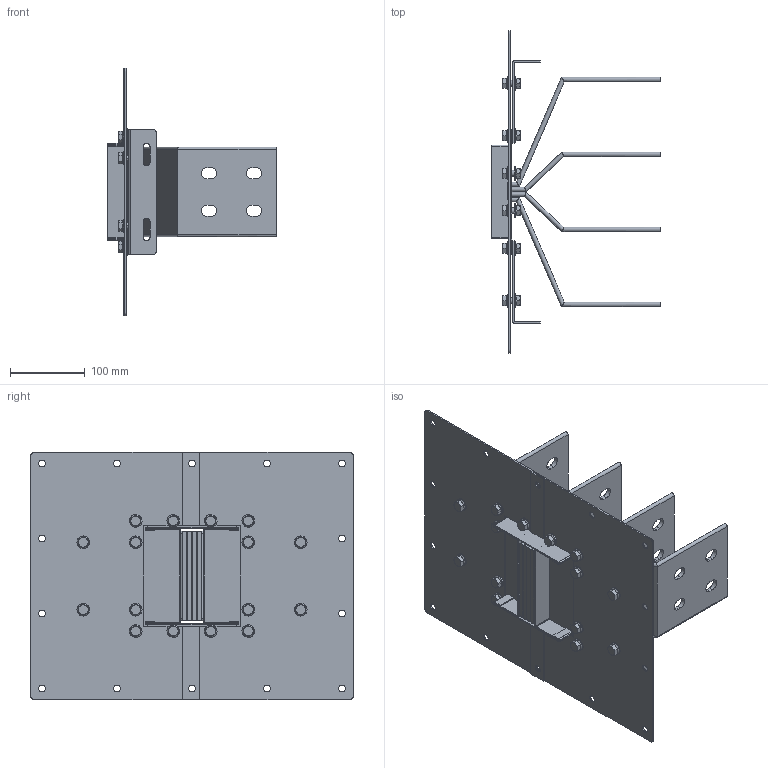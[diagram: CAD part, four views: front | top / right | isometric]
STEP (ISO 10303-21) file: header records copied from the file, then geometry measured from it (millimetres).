
FILE_DESCRIPTION(('CATIA V5 STEP','CAx-IF Rec.Pracs.--- Model Styling and Organization---1.5--- 2016-08-15','CAx-IF Rec.Pracs.---Supplemental Geometry---1.0---2011-11-01','CAx-IF Rec.Pracs.--- Composite Materials ---1.1---2010-07-15'),'2;1');
FILE_NAME('K:\COSCN 2011\32372311_RiduzioneSezioniBarre\03_Studio\__Modelli semplificati\XCP_UB semplificati per studi\XCP-HP_UB_4C_Pe_STD_Assieme\Al\XCP-HP_UB_4C_Pe_S_Assieme - 1250A Al\XCP-HP_UB_4C_Pe_S_Assieme - 1250A Al.stp','2025-05-12T09:29:11+00:00',('Utente Bticino'),('Bticino S.p.A.'),'CATIA Version 5-6 Release 2020 SP5','CATIA V5 STEP AP214 v2','none');
FILE_SCHEMA(('AUTOMOTIVE_DESIGN { 1 0 10303 214 1 1 1 1 }'));
Length unit declared in the file: millimetre
Products named in the file (7): XCP-HP_UB_4C_Pe_S_Assieme - 1250A Al; XCP-HP_UB_4C_Pe_S_PaccoBarre_1250A Al; XCP-HP_UB_4C_Pe_S_Lamiere_1250A Al; Viteria UB H130; Ass Vite+dado M8; Steel hex flanged SCREW M12x16; Steel hex flanged NUT M8
Assembly tree (21 placements, depth 4):
  XCP-HP_UB_4C_Pe_S_Assieme - 1250A Al
    XCP-HP_UB_4C_Pe_S_PaccoBarre_1250A Al
    XCP-HP_UB_4C_Pe_S_Lamiere_1250A Al
    Viteria UB H130
      Ass Vite+dado M8  x16
        Steel hex flanged SCREW M12x16
        Steel hex flanged NUT M8
Bounding box: 225 x 430 x 330 mm (x, y, z)
Volume: 1235242.6 mm3; surface area: 757001.8 mm2
Topology: 44 solids, 44 shells, 1148 faces, 2820 edges, 1792 vertices
Faces by surface type: plane 480, cylinder 380, cone 128, bspline 128, torus 32
Entity records: 14960 total; most frequent: CARTESIAN_POINT 3508, ORIENTED_EDGE 2460, DIRECTION 1928, EDGE_CURVE 1230, AXIS2_PLACEMENT_3D 818, VERTEX_POINT 802, VECTOR 728, LINE 728
